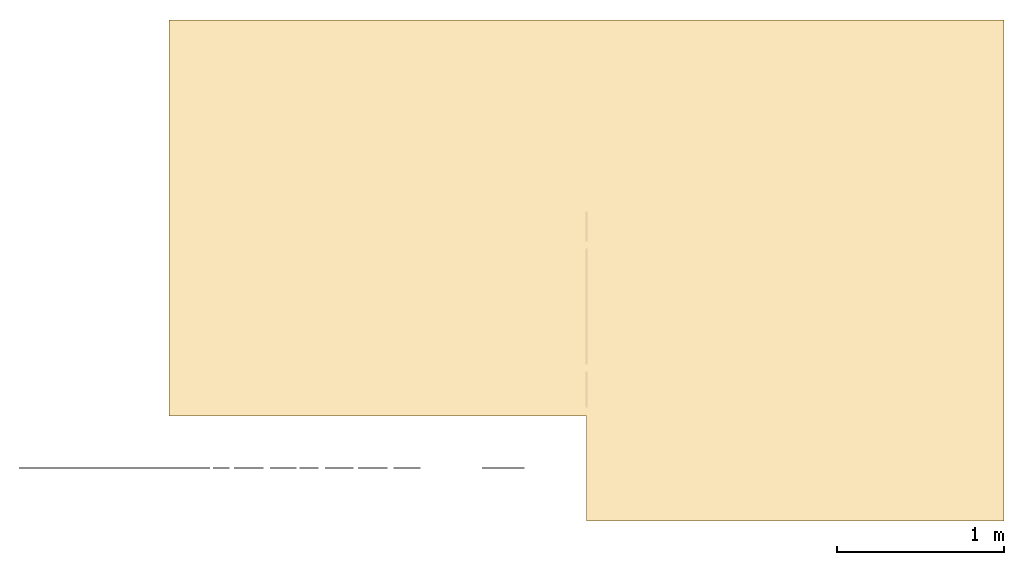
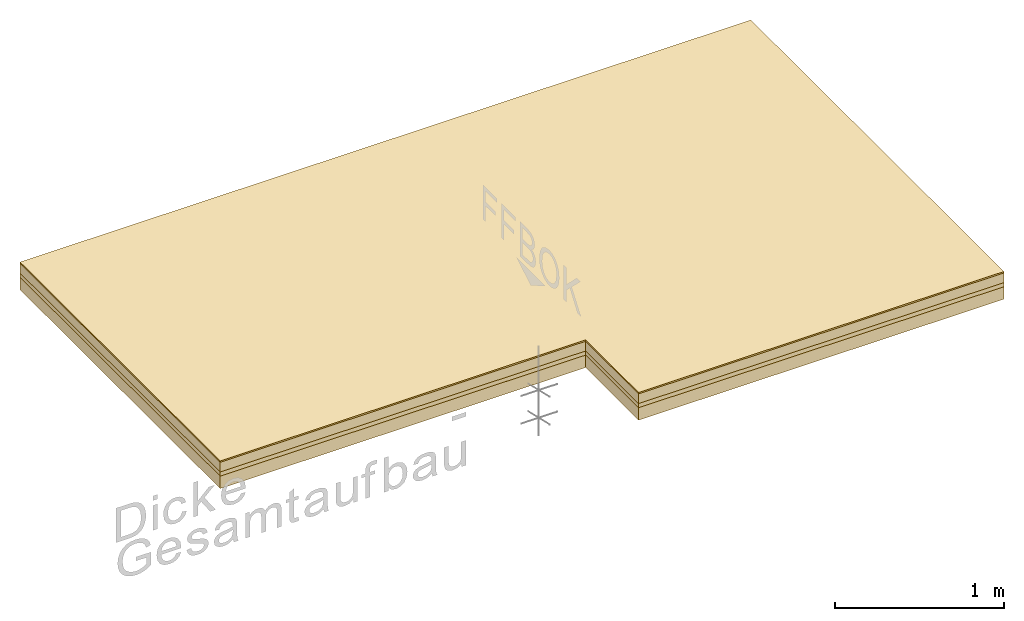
# One storey, part 1 of 3: 4 coverings, 1 element without a shape of its own.
"""IFC4 building model written with IfcOpenShell, lengths in metres."""

from ifc_helpers import new_model, entity, si_unit, converted_unit, derived_unit, frame, origin, origin_with_axes, place, context, subcontext, project, spatial, polyline, outline, extrude, material, layer, layer_set, layer_usage, element, aggregate, save


model = new_model("IFC4")

# Units and contexts
model_context = context("Model", 3, precision=1e-05, world=origin())
body_context = subcontext(model_context, "Body", "Model", "MODEL_VIEW")
ifc_project = project(units=[si_unit("LENGTHUNIT", "METRE"), si_unit("AREAUNIT", "SQUARE_METRE"), si_unit("VOLUMEUNIT", "CUBIC_METRE"), si_unit("MASSUNIT", "GRAM", prefix="KILO"), converted_unit("PLANEANGLEUNIT", "DEGREE", entity("IfcPlaneAngleMeasure", 0.0174532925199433), si_unit("PLANEANGLEUNIT", "RADIAN"), dimensions=[0, 0, 0, 0, 0, 0, 0]), derived_unit("THERMALTRANSMITTANCEUNIT", [(si_unit("POWERUNIT", "WATT"), 1), (si_unit("THERMODYNAMICTEMPERATUREUNIT", "KELVIN"), -1), (si_unit("LENGTHUNIT", "METRE"), -2)]), derived_unit("VOLUMETRICFLOWRATEUNIT", [(si_unit("LENGTHUNIT", "METRE"), 3), (converted_unit("TIMEUNIT", "hour", entity("IfcTimeMeasure", 3600.0), si_unit("TIMEUNIT", "SECOND"), dimensions=[0, 0, 1, 0, 0, 0, 0]), -1), (si_unit("LENGTHUNIT", "METRE"), -1)])], contexts=[model_context])

# Site, building, storey, space
site_placement = place(None, origin())
site = spatial("IfcSite", under=ifc_project, at=site_placement, Name="Liegenschaft", CompositionType="ELEMENT")
building_placement = place(site_placement, origin())
building = spatial("IfcBuilding", under=site, at=building_placement, Name="Gebäude", CompositionType="ELEMENT")
storey_placement = place(building_placement, origin())
storey = spatial("IfcBuildingStorey", under=building, at=storey_placement, Name="Geschoss 02", CompositionType="ELEMENT", Elevation=0.0)
space_placement = place(storey_placement, frame((80.6958806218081, -2.14265977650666, 0.0)))
space = spatial("IfcSpace", under=storey, at=space_placement, Name="00.01", CompositionType="ELEMENT")

# Assembly, coverings
assembly_placement = place(space_placement, frame((-80.6958806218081, 2.14265977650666, 0.0)))
assembly = element("IfcElementAssembly", 1, at=assembly_placement, inside=space, Name="FB 01", PredefinedType="NOTDEFINED")
ifc_material_1 = material(Name="Schüttung")
ifc_layer_1 = layer(ifc_material_1, 0.09)
ifc_layer_set_1 = layer_set([ifc_layer_1], Name="AR_BSCH_SCHÜ")
ifc_layer_usage_1 = layer_usage(ifc_layer_set_1, "AXIS3", "POSITIVE", 0.0)
covering_1_placement = place(space_placement, origin())
covering_1 = element("IfcCovering", 2, at=covering_1_placement, material=ifc_layer_usage_1, Name="FB 01", PredefinedType="FLOORING", context=body_context, shape_type="SweptSolid", body=[
    extrude(outline(polyline([(5.0, 3.0), (0.0, 3.0), (0.0, 0.627440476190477), (2.5, 0.627440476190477), (2.5, 0.0), (5.0, 0.0), (5.0, 3.0)])), origin_with_axes(), (0.0, 0.0, 1.0), 0.09),
])
ifc_material_2 = material(Name="Trittschalldämmung")
ifc_layer_2 = layer(ifc_material_2, 0.03)
ifc_layer_set_2 = layer_set([ifc_layer_2], Name="AR_BSCH_TSD")
ifc_layer_usage_2 = layer_usage(ifc_layer_set_2, "AXIS3", "POSITIVE", 0.0)
covering_2_placement = place(space_placement, frame((0.0, 0.0, 0.09)))
covering_2 = element("IfcCovering", 3, at=covering_2_placement, material=ifc_layer_usage_2, Name="FB 01", PredefinedType="FLOORING", context=body_context, shape_type="SweptSolid", body=[
    extrude(outline(polyline([(5.0, 3.0), (0.0, 3.0), (0.0, 0.627440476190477), (2.5, 0.627440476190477), (2.5, 0.0), (5.0, 0.0), (5.0, 3.0)])), origin_with_axes(), (0.0, 0.0, 1.0), 0.03),
])
ifc_material_3 = material(Name="Estrich")
ifc_layer_3 = layer(ifc_material_3, 0.07)
ifc_layer_set_3 = layer_set([ifc_layer_3], Name="AR_BSCH_EST")
ifc_layer_usage_3 = layer_usage(ifc_layer_set_3, "AXIS3", "POSITIVE", 0.0)
covering_3_placement = place(space_placement, frame((0.0, 0.0, 0.12)))
covering_3 = element("IfcCovering", 4, at=covering_3_placement, material=ifc_layer_usage_3, Name="FB 01", PredefinedType="FLOORING", context=body_context, shape_type="SweptSolid", body=[
    extrude(outline(polyline([(5.0, 3.0), (0.0, 3.0), (0.0, 0.627440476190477), (2.5, 0.627440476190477), (2.5, 0.0), (5.0, 0.0), (5.0, 3.0)])), origin_with_axes(), (0.0, 0.0, 1.0), 0.07),
])
ifc_material_4 = material(Name="Parkett")
ifc_layer_4 = layer(ifc_material_4, 0.01)
ifc_layer_set_4 = layer_set([ifc_layer_4], Name="AR_BSCH_STE")
ifc_layer_usage_4 = layer_usage(ifc_layer_set_4, "AXIS3", "POSITIVE", 0.0)
covering_4_placement = place(space_placement, frame((0.0, 0.0, 0.19)))
covering_4 = element("IfcCovering", 5, at=covering_4_placement, material=ifc_layer_usage_4, Name="FB 01", PredefinedType="FLOORING", context=body_context, shape_type="SweptSolid", body=[
    extrude(outline(polyline([(5.0, 3.0), (0.0, 3.0), (0.0, 0.627440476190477), (2.5, 0.627440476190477), (2.5, 0.0), (5.0, 0.0), (5.0, 3.0)])), origin_with_axes(), (0.0, 0.0, 1.0), 0.01),
])
aggregate(assembly, [covering_1, covering_2, covering_3, covering_4])

save(model, "model.ifc")
